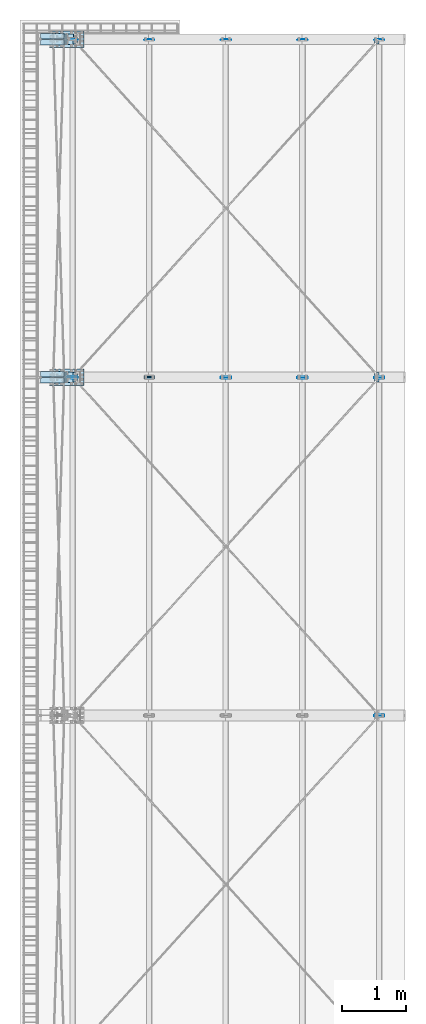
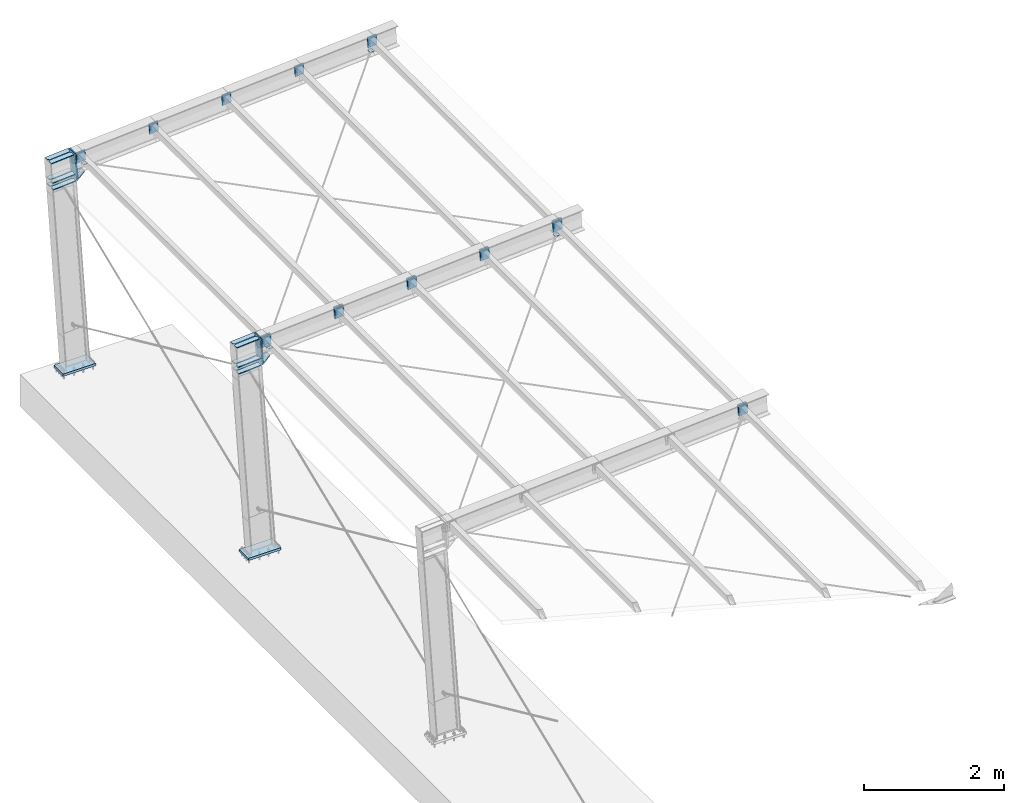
# One storey, part 5 of 72: 43 plates.
"""IFC4 building model written with IfcOpenShell, lengths in metres."""

from ifc_helpers import new_model, si_unit, frame, origin_with_axes, place, context, project, spatial, polyline, outline, extrude, type_object, element, save


model = new_model("IFC4")

# Units and contexts
model_context = context("Model", 3, precision=1e-05, world=origin_with_axes())
ifc_project = project(units=[si_unit("LENGTHUNIT", "METRE"), si_unit("AREAUNIT", "SQUARE_METRE"), si_unit("VOLUMEUNIT", "CUBIC_METRE"), si_unit("MASSUNIT", "GRAM", prefix="KILO"), si_unit("TIMEUNIT", "SECOND"), si_unit("PLANEANGLEUNIT", "RADIAN"), si_unit("SOLIDANGLEUNIT", "STERADIAN"), si_unit("THERMODYNAMICTEMPERATUREUNIT", "DEGREE_CELSIUS")], contexts=[model_context])

# Site, building, storey
placement_1 = place(None, origin_with_axes())
site = spatial("IfcSite", under=ifc_project, at=placement_1, Name="Italia", CompositionType="ELEMENT")
building = spatial("IfcBuilding", under=site, at=placement_1, Name="Pensilina", CompositionType="ELEMENT")
storey = spatial("IfcBuildingStorey", under=building, at=placement_1, Name="Storey 0", CompositionType="ELEMENT", Elevation=0.0)

# Plates
plate_type_1 = type_object("IfcPlateType", Name="Collegamento 0004_-199", PredefinedType="SHEET")
placement_2 = place(placement_1, origin_with_axes())
plate_1_placement = place(placement_2, origin_with_axes())
element("IfcPlate", 1, at=plate_1_placement, inside=storey, type_object=plate_type_1, Name="Collegamento 0004_-199", context=model_context, shape_type="SweptSolid", body=[
    extrude(outline(polyline([(0.0, 0.0, 0.0), (-0.26, 0.0, 0.0), (-0.26, 0.54094, 0.0), (0.0, 0.54094, 0.0), (0.0, 0.0, 0.0)])), frame((0.65818, 15.97, 0.103708), z_axis=(0.0, 0.0, -1.0), x_axis=(0.0, 1.0, 0.0)), (0.0, 0.0, 1.0), 0.04),
])
plate_type_2 = type_object("IfcPlateType", Name="Collegamento 0005_-200", PredefinedType="SHEET")
plate_2_placement = place(placement_2, origin_with_axes())
element("IfcPlate", 2, at=plate_2_placement, inside=storey, type_object=plate_type_2, Name="Collegamento 0005_-200", context=model_context, shape_type="SweptSolid", body=[
    extrude(outline(polyline([(0.0, 0.0, 0.0), (-0.259998, 0.0, 0.0), (-0.259998, 0.54094, 0.0), (0.0, 0.54094, 0.0), (0.0, 0.0, 0.0)])), frame((0.65818, 21.25, 0.103708), z_axis=(0.0, 0.0, -1.0), x_axis=(0.0, 1.0, 0.0)), (0.0, 0.0, 1.0), 0.04),
])
plate_type_3 = type_object("IfcPlateType", Name="Collegamento 0104_0204", PredefinedType="SHEET")
plate_3_placement = place(placement_2, origin_with_axes())
element("IfcPlate", 3, at=plate_3_placement, inside=storey, type_object=plate_type_3, Name="Collegamento 0104_0204", context=model_context, shape_type="SweptSolid", body=[
    extrude(outline(polyline([(0.0, 0.0, 0.0), (-0.17, 0.0, 0.0), (-0.17, 0.48, 0.0), (0.0, 0.48, 0.0), (0.0, 0.0, 0.0)])), frame((0.934563, 15.755, 3.34984), z_axis=(-0.997648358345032, 0.0, -0.068540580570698), x_axis=(0.0, -1.0, 0.0)), (0.0, 0.0, 1.0), 0.025),
])
plate_type_4 = type_object("IfcPlateType", Name="Collegamento 0104_0204", PredefinedType="SHEET")
plate_4_placement = place(placement_2, origin_with_axes())
element("IfcPlate", 4, at=plate_4_placement, inside=storey, type_object=plate_type_4, Name="Collegamento 0104_0204", context=model_context, shape_type="SweptSolid", body=[
    extrude(outline(polyline([(0.0, 0.0, 0.0), (0.17, 0.0, 0.0), (0.17, -0.145344, 0.0), (0.0, -0.145344, 0.0), (0.0, 0.0, 0.0)])), frame((1.03608, 15.755, 3.47709), z_axis=(0.703953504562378, 0.0, -0.710246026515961), x_axis=(0.0, 1.0, 0.0)), (0.0, 0.0, 1.0), 0.0140001),
])
plate_type_5 = type_object("IfcPlateType", Name="Collegamento 0104_0204", PredefinedType="SHEET")
plate_5_placement = place(placement_2, origin_with_axes())
element("IfcPlate", 5, at=plate_5_placement, inside=storey, type_object=plate_type_5, Name="Collegamento 0104_0204", context=model_context, shape_type="SweptSolid", body=[
    extrude(outline(polyline([(0.0, 0.0, 0.0), (0.0929809, -0.00638795, 0.0), (0.10859, -0.0243001, 0.0), (0.10323, -0.102316, 0.0), (0.0, 0.0, 0.0)])), frame((1.03608, 15.833, 3.47709), z_axis=(0.0, 1.0, 0.0), x_axis=(-1.0, 0.0, 0.0)), (0.0, 0.0, 1.0), 0.0139999),
])
plate_type_6 = type_object("IfcPlateType", Name="Collegamento 0104_0204", PredefinedType="SHEET")
plate_6_placement = place(placement_2, origin_with_axes())
element("IfcPlate", 6, at=plate_6_placement, inside=storey, type_object=plate_type_6, Name="Collegamento 0104_0204", context=model_context, shape_type="SweptSolid", body=[
    extrude(outline(polyline([(0.0, 0.0, 0.0), (-0.0647001, 0.0, 0.0), (-0.0857, 0.021, 0.0), (-0.0857, 0.352, 0.0), (-0.0647001, 0.373, 0.0), (0.0, 0.373, 0.0), (0.0, 0.0, 0.0)])), frame((0.491131, 15.93, 3.8005), z_axis=(0.068539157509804, 0.0, -0.997648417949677), x_axis=(0.0, 1.0, 0.0)), (0.0, 0.0, 1.0), 0.014),
])
plate_type_7 = type_object("IfcPlateType", Name="Collegamento 0104_0204", PredefinedType="SHEET")
plate_7_placement = place(placement_2, origin_with_axes())
element("IfcPlate", 7, at=plate_7_placement, inside=storey, type_object=plate_type_7, Name="Collegamento 0104_0204", context=model_context, shape_type="SweptSolid", body=[
    extrude(outline(polyline([(0.0, 0.0, 0.0), (0.0647001, 0.0, 0.0), (0.0857, 0.021, 0.0), (0.0857, 0.352, 0.0), (0.0647001, 0.373, 0.0), (0.0, 0.373, 0.0), (0.0, 0.0, 0.0)])), frame((0.515805, 15.93, 3.44135), z_axis=(-0.06854011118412, 0.0, 0.997648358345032), x_axis=(0.0, -1.0, 0.0)), (0.0, 0.0, 1.0), 0.0140002),
])
plate_type_8 = type_object("IfcPlateType", Name="Collegamento 0104_0204", PredefinedType="SHEET")
plate_8_placement = place(placement_2, origin_with_axes())
element("IfcPlate", 8, at=plate_8_placement, inside=storey, type_object=plate_type_8, Name="Collegamento 0104_0204", context=model_context, shape_type="SweptSolid", body=[
    extrude(outline(polyline([(0.0, 0.0, 0.0), (-0.0647001, 0.0, 0.0), (-0.0857, 0.021, 0.0), (-0.0857, 0.352, 0.0), (-0.0647001, 0.373, 0.0), (0.0, 0.373, 0.0), (0.0, 0.0, 0.0)])), frame((0.492091, 15.75, 3.78653), z_axis=(-0.068539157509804, 0.0, 0.997648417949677), x_axis=(0.0, -1.0, 0.0)), (0.0, 0.0, 1.0), 0.014),
])
plate_type_9 = type_object("IfcPlateType", Name="Collegamento 0104_0204", PredefinedType="SHEET")
plate_9_placement = place(placement_2, origin_with_axes())
element("IfcPlate", 9, at=plate_9_placement, inside=storey, type_object=plate_type_9, Name="Collegamento 0104_0204", context=model_context, shape_type="SweptSolid", body=[
    extrude(outline(polyline([(0.0, 0.0, 0.0), (0.0647001, 0.0, 0.0), (0.0857, 0.0210001, 0.0), (0.0857, 0.352, 0.0), (0.0647001, 0.373, 0.0), (0.0, 0.373, 0.0), (0.0, 0.0, 0.0)])), frame((0.514846, 15.75, 3.45532), z_axis=(0.06854011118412, 0.0, -0.997648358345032), x_axis=(0.0, 1.0, 0.0)), (0.0, 0.0, 1.0), 0.0140002),
])
plate_type_10 = type_object("IfcPlateType", Name="Collegamento 0104_0204", PredefinedType="SHEET")
plate_10_placement = place(placement_2, origin_with_axes())
element("IfcPlate", 10, at=plate_10_placement, inside=storey, type_object=plate_type_10, Name="Collegamento 0104_0204", context=model_context, shape_type="SweptSolid", body=[
    extrude(outline(polyline([(0.0, 0.0, 0.0), (-0.0647001, 0.0, 0.0), (-0.0857, 0.021, 0.0), (-0.0857, 0.352, 0.0), (-0.0647001, 0.373, 0.0), (0.0, 0.373, 0.0), (0.0, 0.0, 0.0)])), frame((0.523071, 15.93, 3.3356), z_axis=(0.068541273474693, 0.0, -0.997648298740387), x_axis=(0.0, 1.0, 0.0)), (0.0, 0.0, 1.0), 0.014),
])
plate_type_11 = type_object("IfcPlateType", Name="Collegamento 0104_0204", PredefinedType="SHEET")
plate_11_placement = place(placement_2, origin_with_axes())
element("IfcPlate", 11, at=plate_11_placement, inside=storey, type_object=plate_type_11, Name="Collegamento 0104_0204", context=model_context, shape_type="SweptSolid", body=[
    extrude(outline(polyline([(0.0, 0.0, 0.0), (-0.0647001, 0.0, 0.0), (-0.0857, 0.021, 0.0), (-0.0857, 0.352, 0.0), (-0.0647001, 0.373, 0.0), (0.0, 0.373, 0.0), (0.0, 0.0, 0.0)])), frame((0.52403, 15.75, 3.32163), z_axis=(-0.068541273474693, 0.0, 0.997648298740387), x_axis=(0.0, -1.0, 0.0)), (0.0, 0.0, 1.0), 0.014),
])
plate_type_12 = type_object("IfcPlateType", Name="Collegamento 0105_0205", PredefinedType="SHEET")
plate_12_placement = place(placement_2, origin_with_axes())
element("IfcPlate", 12, at=plate_12_placement, inside=storey, type_object=plate_type_12, Name="Collegamento 0105_0205", context=model_context, shape_type="SweptSolid", body=[
    extrude(outline(polyline([(0.0, 0.0, 0.0), (-0.169998, 0.0, 0.0), (-0.169998, 0.48, 0.0), (0.0, 0.48, 0.0), (0.0, 0.0, 0.0)])), frame((0.934563, 21.035, 3.34984), z_axis=(-0.997648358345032, 0.0, -0.068540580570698), x_axis=(0.0, -1.0, 0.0)), (0.0, 0.0, 1.0), 0.025),
])
plate_type_13 = type_object("IfcPlateType", Name="Collegamento 0105_0205", PredefinedType="SHEET")
plate_13_placement = place(placement_2, origin_with_axes())
element("IfcPlate", 13, at=plate_13_placement, inside=storey, type_object=plate_type_13, Name="Collegamento 0105_0205", context=model_context, shape_type="SweptSolid", body=[
    extrude(outline(polyline([(0.0, 0.0, 0.0), (0.169998, 0.0, 0.0), (0.169998, -0.145344, 0.0), (0.0, -0.145344, 0.0), (0.0, 0.0, 0.0)])), frame((1.03608, 21.035, 3.47709), z_axis=(0.703953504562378, 0.0, -0.710246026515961), x_axis=(0.0, 1.0, 0.0)), (0.0, 0.0, 1.0), 0.0140001),
])
plate_type_14 = type_object("IfcPlateType", Name="Collegamento 0105_0205", PredefinedType="SHEET")
plate_14_placement = place(placement_2, origin_with_axes())
element("IfcPlate", 14, at=plate_14_placement, inside=storey, type_object=plate_type_14, Name="Collegamento 0105_0205", context=model_context, shape_type="SweptSolid", body=[
    extrude(outline(polyline([(0.0, 0.0, 0.0), (0.0929809, -0.00638795, 0.0), (0.10859, -0.0243001, 0.0), (0.10323, -0.102316, 0.0), (0.0, 0.0, 0.0)])), frame((1.03608, 21.113, 3.47709), z_axis=(0.0, 1.0, 0.0), x_axis=(-1.0, 0.0, 0.0)), (0.0, 0.0, 1.0), 0.0139999),
])
plate_type_15 = type_object("IfcPlateType", Name="Collegamento 0105_0205", PredefinedType="SHEET")
plate_15_placement = place(placement_2, origin_with_axes())
element("IfcPlate", 15, at=plate_15_placement, inside=storey, type_object=plate_type_15, Name="Collegamento 0105_0205", context=model_context, shape_type="SweptSolid", body=[
    extrude(outline(polyline([(0.0, 0.0, 0.0), (-0.0647011, 0.0, 0.0), (-0.085701, 0.021, 0.0), (-0.085701, 0.352, 0.0), (-0.0647011, 0.373, 0.0), (0.0, 0.373, 0.0), (0.0, 0.0, 0.0)])), frame((0.491131, 21.21, 3.8005), z_axis=(0.068539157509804, 0.0, -0.997648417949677), x_axis=(0.0, 1.0, 0.0)), (0.0, 0.0, 1.0), 0.014),
])
plate_type_16 = type_object("IfcPlateType", Name="Collegamento 0105_0205", PredefinedType="SHEET")
plate_16_placement = place(placement_2, origin_with_axes())
element("IfcPlate", 16, at=plate_16_placement, inside=storey, type_object=plate_type_16, Name="Collegamento 0105_0205", context=model_context, shape_type="SweptSolid", body=[
    extrude(outline(polyline([(0.0, 0.0, 0.0), (0.0647011, 0.0, 0.0), (0.085701, 0.021, 0.0), (0.085701, 0.352, 0.0), (0.0647011, 0.373, 0.0), (0.0, 0.373, 0.0), (0.0, 0.0, 0.0)])), frame((0.515805, 21.21, 3.44135), z_axis=(-0.06854011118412, 0.0, 0.997648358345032), x_axis=(0.0, -1.0, 0.0)), (0.0, 0.0, 1.0), 0.0140002),
])
plate_type_17 = type_object("IfcPlateType", Name="Collegamento 0105_0205", PredefinedType="SHEET")
plate_17_placement = place(placement_2, origin_with_axes())
element("IfcPlate", 17, at=plate_17_placement, inside=storey, type_object=plate_type_17, Name="Collegamento 0105_0205", context=model_context, shape_type="SweptSolid", body=[
    extrude(outline(polyline([(0.0, 0.0, 0.0), (-0.0647011, 0.0, 0.0), (-0.085701, 0.021, 0.0), (-0.085701, 0.352, 0.0), (-0.0647011, 0.373, 0.0), (0.0, 0.373, 0.0), (0.0, 0.0, 0.0)])), frame((0.492091, 21.03, 3.78653), z_axis=(-0.068539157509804, 0.0, 0.997648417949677), x_axis=(0.0, -1.0, 0.0)), (0.0, 0.0, 1.0), 0.014),
])
plate_type_18 = type_object("IfcPlateType", Name="Collegamento 0105_0205", PredefinedType="SHEET")
plate_18_placement = place(placement_2, origin_with_axes())
element("IfcPlate", 18, at=plate_18_placement, inside=storey, type_object=plate_type_18, Name="Collegamento 0105_0205", context=model_context, shape_type="SweptSolid", body=[
    extrude(outline(polyline([(0.0, 0.0, 0.0), (0.0647011, 0.0, 0.0), (0.085701, 0.0210001, 0.0), (0.085701, 0.352, 0.0), (0.0647011, 0.373, 0.0), (0.0, 0.373, 0.0), (0.0, 0.0, 0.0)])), frame((0.514846, 21.03, 3.45532), z_axis=(0.06854011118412, 0.0, -0.997648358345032), x_axis=(0.0, 1.0, 0.0)), (0.0, 0.0, 1.0), 0.0140002),
])
plate_type_19 = type_object("IfcPlateType", Name="Collegamento 0105_0205", PredefinedType="SHEET")
plate_19_placement = place(placement_2, origin_with_axes())
element("IfcPlate", 19, at=plate_19_placement, inside=storey, type_object=plate_type_19, Name="Collegamento 0105_0205", context=model_context, shape_type="SweptSolid", body=[
    extrude(outline(polyline([(0.0, 0.0, 0.0), (-0.0647011, 0.0, 0.0), (-0.085701, 0.021, 0.0), (-0.085701, 0.352, 0.0), (-0.0647011, 0.373, 0.0), (0.0, 0.373, 0.0), (0.0, 0.0, 0.0)])), frame((0.523071, 21.21, 3.3356), z_axis=(0.068541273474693, 0.0, -0.997648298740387), x_axis=(0.0, 1.0, 0.0)), (0.0, 0.0, 1.0), 0.014),
])
plate_type_20 = type_object("IfcPlateType", Name="Collegamento 0105_0205", PredefinedType="SHEET")
plate_20_placement = place(placement_2, origin_with_axes())
element("IfcPlate", 20, at=plate_20_placement, inside=storey, type_object=plate_type_20, Name="Collegamento 0105_0205", context=model_context, shape_type="SweptSolid", body=[
    extrude(outline(polyline([(0.0, 0.0, 0.0), (-0.0647011, 0.0, 0.0), (-0.085701, 0.021, 0.0), (-0.085701, 0.352, 0.0), (-0.0647011, 0.373, 0.0), (0.0, 0.373, 0.0), (0.0, 0.0, 0.0)])), frame((0.52403, 21.03, 3.32163), z_axis=(-0.068541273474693, 0.0, 0.997648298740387), x_axis=(0.0, -1.0, 0.0)), (0.0, 0.0, 1.0), 0.014),
])
plate_type_21 = type_object("IfcPlateType", Name="Collegamento 0204_0203", PredefinedType="SHEET")
plate_21_placement = place(placement_2, origin_with_axes())
element("IfcPlate", 21, at=plate_21_placement, inside=storey, type_object=plate_type_21, Name="Collegamento 0204_0203", context=model_context, shape_type="SweptSolid", body=[
    extrude(outline(polyline([(0.0, 0.0, 0.0), (-0.147664, 0.00996304, 0.0), (-0.135008, 0.197536, 0.0), (0.0126559, 0.187573, 0.0), (0.0, 0.0, 0.0)])), frame((0.953545, 15.821, 3.59781), z_axis=(0.0, 1.0, 0.0), x_axis=(-1.0, 0.0, 0.0)), (0.0, 0.0, 1.0), 0.0150003),
])
plate_type_22 = type_object("IfcPlateType", Name="Collegamento 0204_0205", PredefinedType="SHEET")
plate_22_placement = place(placement_2, origin_with_axes())
element("IfcPlate", 22, at=plate_22_placement, inside=storey, type_object=plate_type_22, Name="Collegamento 0204_0205", context=model_context, shape_type="SweptSolid", body=[
    extrude(outline(polyline([(0.0, 0.0, 0.0), (-0.147664, -0.00996304, 0.0), (-0.16032, 0.17761, 0.0), (-0.012656, 0.187573, 0.0), (0.0, 0.0, 0.0)])), frame((1.10121, 15.859, 3.60777), z_axis=(0.0, -1.0, 0.0), x_axis=(1.0, 0.0, 0.0)), (0.0, 0.0, 1.0), 0.0150003),
])
plate_type_23 = type_object("IfcPlateType", Name="Collegamento 0204_0603", PredefinedType="SHEET")
plate_23_placement = place(placement_2, origin_with_axes())
element("IfcPlate", 23, at=plate_23_placement, inside=storey, type_object=plate_type_23, Name="Collegamento 0204_0603", context=model_context, shape_type="SweptSolid", body=[
    extrude(outline(polyline([(0.0, 0.0, 0.0), (-0.04706, -0.0518236, 0.0), (-0.0988817, -0.00476456, 0.0), (-0.0518217, 0.0470581, 0.0), (0.0, 0.0, 0.0)])), frame((1.02776, 15.7655, 3.57425), z_axis=(-0.03097090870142, 0.034141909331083, 0.998937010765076), x_axis=(-0.740665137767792, -0.671874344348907, 0.0)), (0.0, 0.0, 1.0), 0.00999989),
])
plate_type_24 = type_object("IfcPlateType", Name="Collegamento 0204_0605", PredefinedType="SHEET")
plate_24_placement = place(placement_2, origin_with_axes())
element("IfcPlate", 24, at=plate_24_placement, inside=storey, type_object=plate_type_24, Name="Collegamento 0204_0605", context=model_context, shape_type="SweptSolid", body=[
    extrude(outline(polyline([(0.0, 0.0, 0.0), (0.0470505, -0.0518303, 0.0), (-0.00478077, -0.0988789, 0.0), (-0.0518293, -0.0470486, 0.0), (0.0, 0.0, 0.0)])), frame((1.09773, 15.9145, 3.5564), z_axis=(-0.030957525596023, -0.034140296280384, 0.998937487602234), x_axis=(0.740793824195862, -0.671732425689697, 0.0)), (0.0, 0.0, 1.0), 0.0100004),
])
plate_type_25 = type_object("IfcPlateType", Name="Collegamento 0205_0204", PredefinedType="SHEET")
plate_25_placement = place(placement_2, origin_with_axes())
element("IfcPlate", 25, at=plate_25_placement, inside=storey, type_object=plate_type_25, Name="Collegamento 0205_0204", context=model_context, shape_type="SweptSolid", body=[
    extrude(outline(polyline([(0.0, 0.0, 0.0), (-0.147664, 0.00996304, 0.0), (-0.135008, 0.197536, 0.0), (0.0126559, 0.187573, 0.0), (0.0, 0.0, 0.0)])), frame((0.953545, 21.106, 3.59781), z_axis=(0.0, 1.0, 0.0), x_axis=(-1.0, 0.0, 0.0)), (0.0, 0.0, 1.0), 0.0100002),
])
plate_type_26 = type_object("IfcPlateType", Name="Collegamento 0205_0604", PredefinedType="SHEET")
plate_26_placement = place(placement_2, origin_with_axes())
element("IfcPlate", 26, at=plate_26_placement, inside=storey, type_object=plate_type_26, Name="Collegamento 0205_0604", context=model_context, shape_type="SweptSolid", body=[
    extrude(outline(polyline([(0.0, 0.0, 0.0), (-0.0470467, -0.0518274, 0.0), (-0.0988789, -0.00478077, 0.0), (-0.0518312, 0.0470495, 0.0), (0.0, 0.0, 0.0)])), frame((1.02776, 21.0455, 3.57425), z_axis=(-0.030957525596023, 0.034140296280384, 0.998937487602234), x_axis=(-0.740793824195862, -0.671732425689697, 0.0)), (0.0, 0.0, 1.0), 0.0100004),
])
plate_type_27 = type_object("IfcPlateType", Name="Collegamento 0304_0303", PredefinedType="SHEET")
plate_27_placement = place(placement_2, origin_with_axes())
element("IfcPlate", 27, at=plate_27_placement, inside=storey, type_object=plate_type_27, Name="Collegamento 0304_0303", context=model_context, shape_type="SweptSolid", body=[
    extrude(outline(polyline([(0.0, 0.0, 0.0), (-0.147664, 0.00996304, 0.0), (-0.135008, 0.197536, 0.0), (0.012656, 0.187573, 0.0), (0.0, 0.0, 0.0)])), frame((2.15077, 15.816, 3.68006), z_axis=(0.0, 1.0, 0.0), x_axis=(-1.0, 0.0, 0.0)), (0.0, 0.0, 1.0), 0.0200005),
])
plate_type_28 = type_object("IfcPlateType", Name="Collegamento 0304_0305", PredefinedType="SHEET")
plate_28_placement = place(placement_2, origin_with_axes())
element("IfcPlate", 28, at=plate_28_placement, inside=storey, type_object=plate_type_28, Name="Collegamento 0304_0305", context=model_context, shape_type="SweptSolid", body=[
    extrude(outline(polyline([(0.0, 0.0, 0.0), (-0.147664, -0.00996304, 0.0), (-0.16032, 0.17761, 0.0), (-0.012656, 0.187573, 0.0), (0.0, 0.0, 0.0)])), frame((2.29843, 15.864, 3.69003), z_axis=(0.0, -1.0, 0.0), x_axis=(1.0, 0.0, 0.0)), (0.0, 0.0, 1.0), 0.0200005),
])
plate_type_29 = type_object("IfcPlateType", Name="Collegamento 0305_0304", PredefinedType="SHEET")
plate_29_placement = place(placement_2, origin_with_axes())
element("IfcPlate", 29, at=plate_29_placement, inside=storey, type_object=plate_type_29, Name="Collegamento 0305_0304", context=model_context, shape_type="SweptSolid", body=[
    extrude(outline(polyline([(0.0, 0.0, 0.0), (-0.147664, 0.00996304, 0.0), (-0.135008, 0.197536, 0.0), (0.012656, 0.187573, 0.0), (0.0, 0.0, 0.0)])), frame((2.15077, 21.106, 3.68006), z_axis=(0.0, 1.0, 0.0), x_axis=(-1.0, 0.0, 0.0)), (0.0, 0.0, 1.0), 0.0100002),
])
plate_type_30 = type_object("IfcPlateType", Name="Collegamento 0404_0403", PredefinedType="SHEET")
plate_30_placement = place(placement_2, origin_with_axes())
element("IfcPlate", 30, at=plate_30_placement, inside=storey, type_object=plate_type_30, Name="Collegamento 0404_0403", context=model_context, shape_type="SweptSolid", body=[
    extrude(outline(polyline([(0.0, 0.0, 0.0), (-0.147664, 0.00996304, 0.0), (-0.135008, 0.197536, 0.0), (0.012656, 0.187573, 0.0), (0.0, 0.0, 0.0)])), frame((3.34789, 15.821, 3.76231), z_axis=(0.0, 1.0, 0.0), x_axis=(-1.0, 0.0, 0.0)), (0.0, 0.0, 1.0), 0.0150003),
])
plate_type_31 = type_object("IfcPlateType", Name="Collegamento 0404_0405", PredefinedType="SHEET")
plate_31_placement = place(placement_2, origin_with_axes())
element("IfcPlate", 31, at=plate_31_placement, inside=storey, type_object=plate_type_31, Name="Collegamento 0404_0405", context=model_context, shape_type="SweptSolid", body=[
    extrude(outline(polyline([(0.0, 0.0, 0.0), (-0.147664, -0.00996304, 0.0), (-0.16032, 0.17761, 0.0), (-0.012656, 0.187573, 0.0), (0.0, 0.0, 0.0)])), frame((3.49556, 15.859, 3.77227), z_axis=(0.0, -1.0, 0.0), x_axis=(1.0, 0.0, 0.0)), (0.0, 0.0, 1.0), 0.0150003),
])
plate_type_32 = type_object("IfcPlateType", Name="Collegamento 0405_0404", PredefinedType="SHEET")
plate_32_placement = place(placement_2, origin_with_axes())
element("IfcPlate", 32, at=plate_32_placement, inside=storey, type_object=plate_type_32, Name="Collegamento 0405_0404", context=model_context, shape_type="SweptSolid", body=[
    extrude(outline(polyline([(0.0, 0.0, 0.0), (-0.147664, 0.00996304, 0.0), (-0.135008, 0.197536, 0.0), (0.012656, 0.187573, 0.0), (0.0, 0.0, 0.0)])), frame((3.34789, 21.106, 3.76231), z_axis=(0.0, 1.0, 0.0), x_axis=(-1.0, 0.0, 0.0)), (0.0, 0.0, 1.0), 0.0100002),
])
plate_type_33 = type_object("IfcPlateType", Name="Collegamento 0504_0503", PredefinedType="SHEET")
plate_33_placement = place(placement_2, origin_with_axes())
element("IfcPlate", 33, at=plate_33_placement, inside=storey, type_object=plate_type_33, Name="Collegamento 0504_0503", context=model_context, shape_type="SweptSolid", body=[
    extrude(outline(polyline([(0.0, 0.0, 0.0), (-0.147664, 0.00996327, 0.0), (-0.135008, 0.197537, 0.0), (0.0126562, 0.187574, 0.0), (0.0, 0.0, 0.0)])), frame((4.5451, 15.821, 3.84456), z_axis=(0.0, 1.0, 0.0), x_axis=(-1.0, 0.0, 0.0)), (0.0, 0.0, 1.0), 0.0150003),
])
plate_type_34 = type_object("IfcPlateType", Name="Collegamento 0504_0505", PredefinedType="SHEET")
plate_34_placement = place(placement_2, origin_with_axes())
element("IfcPlate", 34, at=plate_34_placement, inside=storey, type_object=plate_type_34, Name="Collegamento 0504_0505", context=model_context, shape_type="SweptSolid", body=[
    extrude(outline(polyline([(0.0, 0.0, 0.0), (-0.147664, -0.00996327, 0.0), (-0.16032, 0.17761, 0.0), (-0.0126562, 0.187573, 0.0), (0.0, 0.0, 0.0)])), frame((4.69277, 15.859, 3.85452), z_axis=(0.0, -1.0, 0.0), x_axis=(1.0, 0.0, 0.0)), (0.0, 0.0, 1.0), 0.0150003),
])
plate_type_35 = type_object("IfcPlateType", Name="Collegamento 0505_0504", PredefinedType="SHEET")
plate_35_placement = place(placement_2, origin_with_axes())
element("IfcPlate", 35, at=plate_35_placement, inside=storey, type_object=plate_type_35, Name="Collegamento 0505_0504", context=model_context, shape_type="SweptSolid", body=[
    extrude(outline(polyline([(0.0, 0.0, 0.0), (-0.147664, 0.00996327, 0.0), (-0.135008, 0.197537, 0.0), (0.0126562, 0.187574, 0.0), (0.0, 0.0, 0.0)])), frame((4.5451, 21.106, 3.84456), z_axis=(0.0, 1.0, 0.0), x_axis=(-1.0, 0.0, 0.0)), (0.0, 0.0, 1.0), 0.0100002),
])
plate_type_36 = type_object("IfcPlateType", Name="Collegamento 0603_0602", PredefinedType="SHEET")
plate_36_placement = place(placement_2, origin_with_axes())
element("IfcPlate", 36, at=plate_36_placement, inside=storey, type_object=plate_type_36, Name="Collegamento 0603_0602", context=model_context, shape_type="SweptSolid", body=[
    extrude(outline(polyline([(0.0, 0.0, 0.0), (-0.147664, 0.00996327, 0.0), (-0.135008, 0.197537, 0.0), (0.0126562, 0.187574, 0.0), (0.0, 0.0, 0.0)])), frame((5.74231, 10.541, 3.92681), z_axis=(0.0, 1.0, 0.0), x_axis=(-1.0, 0.0, 0.0)), (0.0, 0.0, 1.0), 0.0150003),
])
plate_type_37 = type_object("IfcPlateType", Name="Collegamento 0603_0604", PredefinedType="SHEET")
plate_37_placement = place(placement_2, origin_with_axes())
element("IfcPlate", 37, at=plate_37_placement, inside=storey, type_object=plate_type_37, Name="Collegamento 0603_0604", context=model_context, shape_type="SweptSolid", body=[
    extrude(outline(polyline([(0.0, 0.0, 0.0), (-0.147664, -0.00996327, 0.0), (-0.16032, 0.17761, 0.0), (-0.0126562, 0.187573, 0.0), (0.0, 0.0, 0.0)])), frame((5.88997, 10.579, 3.93677), z_axis=(0.0, -1.0, 0.0), x_axis=(1.0, 0.0, 0.0)), (0.0, 0.0, 1.0), 0.0150003),
])
plate_type_38 = type_object("IfcPlateType", Name="Collegamento 0604_0203", PredefinedType="SHEET")
plate_38_placement = place(placement_2, origin_with_axes())
element("IfcPlate", 38, at=plate_38_placement, inside=storey, type_object=plate_type_38, Name="Collegamento 0604_0203", context=model_context, shape_type="SweptSolid", body=[
    extrude(outline(polyline([(0.0, 0.0, 0.0), (-0.0470066, 0.0518684, 0.0), (-0.0988755, 0.00486183, 0.0), (-0.0518689, -0.0470076, 0.0), (0.0, 0.0, 0.0)])), frame((5.80941, 15.7666, 3.87795), z_axis=(-0.030993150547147, -0.034235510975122, 0.998933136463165), x_axis=(0.741340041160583, -0.671129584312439, 0.0)), (0.0, 0.0, 1.0), 0.0100004),
])
plate_type_39 = type_object("IfcPlateType", Name="Collegamento 0604_0205", PredefinedType="SHEET")
plate_39_placement = place(placement_2, origin_with_axes())
element("IfcPlate", 39, at=plate_39_placement, inside=storey, type_object=plate_type_39, Name="Collegamento 0604_0205", context=model_context, shape_type="SweptSolid", body=[
    extrude(outline(polyline([(0.0, 0.0, 0.0), (0.0471106, 0.051774, 0.0), (-0.00466347, 0.0988855, 0.0), (-0.051774, 0.047112, 0.0), (0.0, 0.0, 0.0)])), frame((5.73945, 15.9134, 3.8958), z_axis=(-0.030947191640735, 0.034046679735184, 0.998941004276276), x_axis=(-0.739986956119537, -0.672621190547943, 0.0)), (0.0, 0.0, 1.0), 0.00999985),
])
plate_type_40 = type_object("IfcPlateType", Name="Collegamento 0604_0603", PredefinedType="SHEET")
plate_40_placement = place(placement_2, origin_with_axes())
element("IfcPlate", 40, at=plate_40_placement, inside=storey, type_object=plate_type_40, Name="Collegamento 0604_0603", context=model_context, shape_type="SweptSolid", body=[
    extrude(outline(polyline([(0.0, 0.0, 0.0), (-0.147664, 0.00996327, 0.0), (-0.135008, 0.197537, 0.0), (0.0126562, 0.187574, 0.0), (0.0, 0.0, 0.0)])), frame((5.74231, 15.821, 3.92681), z_axis=(0.0, 1.0, 0.0), x_axis=(-1.0, 0.0, 0.0)), (0.0, 0.0, 1.0), 0.0150003),
])
plate_type_41 = type_object("IfcPlateType", Name="Collegamento 0604_0605", PredefinedType="SHEET")
plate_41_placement = place(placement_2, origin_with_axes())
element("IfcPlate", 41, at=plate_41_placement, inside=storey, type_object=plate_type_41, Name="Collegamento 0604_0605", context=model_context, shape_type="SweptSolid", body=[
    extrude(outline(polyline([(0.0, 0.0, 0.0), (-0.147664, -0.00996327, 0.0), (-0.16032, 0.17761, 0.0), (-0.0126562, 0.187573, 0.0), (0.0, 0.0, 0.0)])), frame((5.88997, 15.859, 3.93677), z_axis=(0.0, -1.0, 0.0), x_axis=(1.0, 0.0, 0.0)), (0.0, 0.0, 1.0), 0.0150003),
])
plate_type_42 = type_object("IfcPlateType", Name="Collegamento 0605_0204", PredefinedType="SHEET")
plate_42_placement = place(placement_2, origin_with_axes())
element("IfcPlate", 42, at=plate_42_placement, inside=storey, type_object=plate_type_42, Name="Collegamento 0605_0204", context=model_context, shape_type="SweptSolid", body=[
    extrude(outline(polyline([(0.0, 0.0, 0.0), (-0.0472231, 0.0516739, 0.0), (-0.0988951, 0.00445175, 0.0), (-0.0516739, -0.0472183, 0.0), (0.0, 0.0, 0.0)])), frame((5.80941, 21.0466, 3.87795), z_axis=(-0.030994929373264, -0.033951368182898, 0.998942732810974), x_axis=(0.738530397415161, -0.674220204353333, 0.0)), (0.0, 0.0, 1.0), 0.00999983),
])
plate_type_43 = type_object("IfcPlateType", Name="Collegamento 0605_0604", PredefinedType="SHEET")
plate_43_placement = place(placement_2, origin_with_axes())
element("IfcPlate", 43, at=plate_43_placement, inside=storey, type_object=plate_type_43, Name="Collegamento 0605_0604", context=model_context, shape_type="SweptSolid", body=[
    extrude(outline(polyline([(0.0, 0.0, 0.0), (-0.147664, 0.00996327, 0.0), (-0.135008, 0.197537, 0.0), (0.0126562, 0.187574, 0.0), (0.0, 0.0, 0.0)])), frame((5.74231, 21.106, 3.92681), z_axis=(0.0, 1.0, 0.0), x_axis=(-1.0, 0.0, 0.0)), (0.0, 0.0, 1.0), 0.0100002),
])

save(model, "model.ifc")
